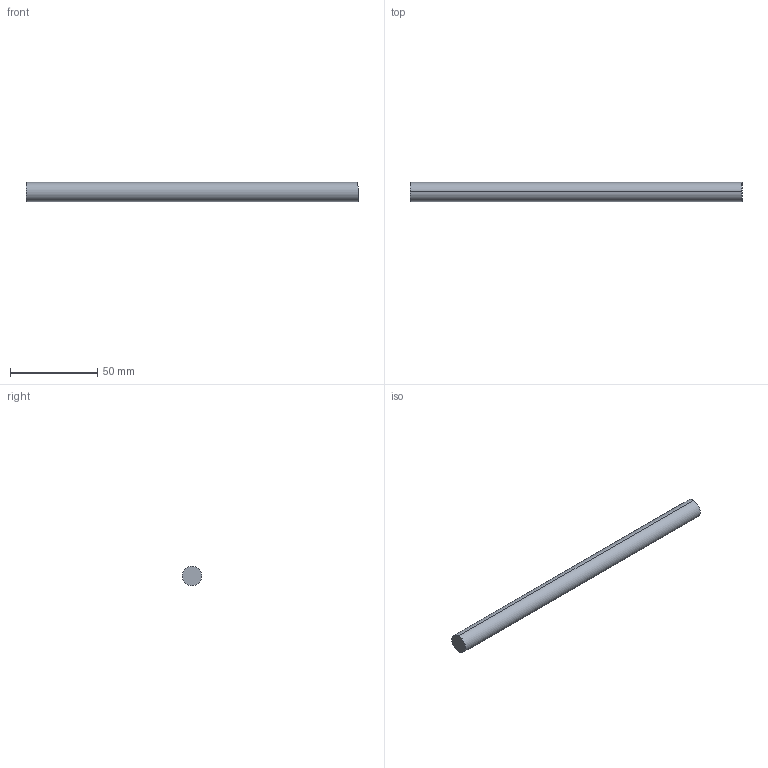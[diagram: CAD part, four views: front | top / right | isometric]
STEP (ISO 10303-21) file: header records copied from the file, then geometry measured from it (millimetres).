
FILE_DESCRIPTION (( 'STEP AP214' ), '1' );
FILE_NAME ('Querreling_Frontblende_Innenlade_KS-16_25mm-Halter_KAB-300.step', '2010-09-22T15:05:37', ( 'grass' ), ( '' ), 'SwSTEP 2.0', 'SolidWorks 2010', '' );
FILE_SCHEMA (( 'AUTOMOTIVE_DESIGN' ));
Length unit declared in the file: millimetre
Products named in the file (1): Querreling_Frontblende_Innenlade_KS-16_25mm-Halter_KAB-300
Bounding box: 190 x 11 x 11 mm (x, y, z)
Volume: 18056.3 mm3; surface area: 6756 mm2
Topology: 1 solids, 1 shells, 4 faces, 6 edges, 4 vertices
Faces by surface type: cylinder 2, plane 2
Entity records: 128 total; most frequent: DIRECTION 20, CARTESIAN_POINT 15, ORIENTED_EDGE 12, AXIS2_PLACEMENT_3D 9, EDGE_CURVE 6, VERTEX_POINT 4, EDGE_LOOP 4, FACE_OUTER_BOUND 4
